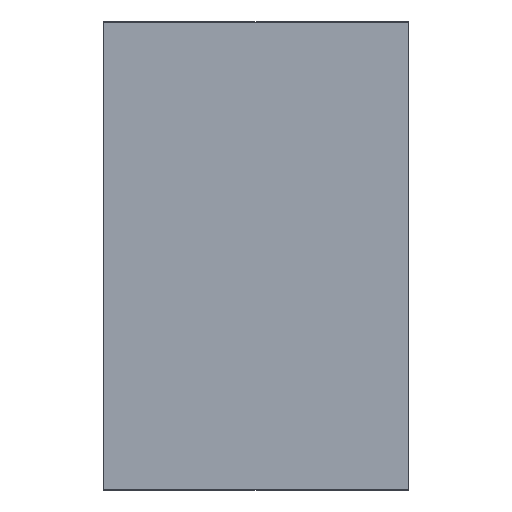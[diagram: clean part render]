
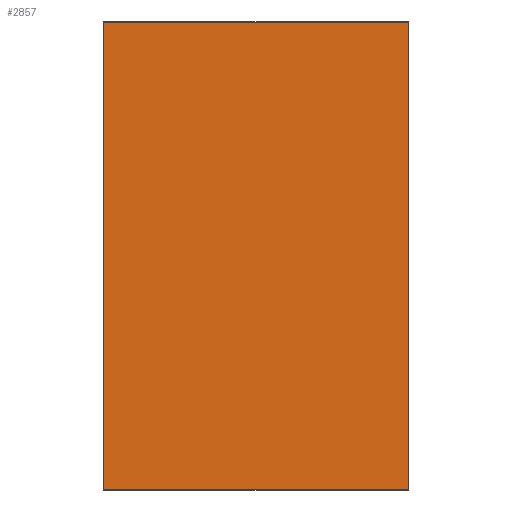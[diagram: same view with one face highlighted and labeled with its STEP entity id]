
A CAD part, left-side view. The second image highlights one B-rep face of the part: STEP entity #2857.
In plain terms, the highlighted planar face has unit normal (-1, 0, 0).
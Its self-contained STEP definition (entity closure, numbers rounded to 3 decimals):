
#40 = ORIENTED_EDGE ( 'NONE', *, *, #2228, .T. ) ;
#103 = ORIENTED_EDGE ( 'NONE', *, *, #1837, .T. ) ;
#109 = VERTEX_POINT ( 'NONE', #358 ) ;
#127 = DIRECTION ( 'NONE',  ( 0., 0., -1. ) ) ;
#169 = ORIENTED_EDGE ( 'NONE', *, *, #928, .F. ) ;
#193 = DIRECTION ( 'NONE',  ( 1., 0., 0. ) ) ;
#223 = CARTESIAN_POINT ( 'NONE',  ( 0., 19.5, 0. ) ) ;
#264 = CARTESIAN_POINT ( 'NONE',  ( 0., 19.5, 0. ) ) ;
#357 = VECTOR ( 'NONE', #1510, 1000. ) ;
#358 = CARTESIAN_POINT ( 'NONE',  ( 0., 0., 0. ) ) ;
#386 = LINE ( 'NONE', #1480, #1432 ) ;
#473 = PLANE ( 'NONE',  #2042 ) ;
#519 = LINE ( 'NONE', #1356, #1676 ) ;
#584 = VERTEX_POINT ( 'NONE', #264 ) ;
#826 = DIRECTION ( 'NONE',  ( 0., 0., 1. ) ) ;
#928 = EDGE_CURVE ( 'NONE', #1128, #1157, #2076, .T. ) ;
#1128 = VERTEX_POINT ( 'NONE', #2075 ) ;
#1157 = VERTEX_POINT ( 'NONE', #2723 ) ;
#1233 = CARTESIAN_POINT ( 'NONE',  ( 0., -0.707, -30. ) ) ;
#1288 = EDGE_LOOP ( 'NONE', ( #1887, #169, #40, #103 ) ) ;
#1356 = CARTESIAN_POINT ( 'NONE',  ( 0., 0., -30.707 ) ) ;
#1389 = FACE_OUTER_BOUND ( 'NONE', #1288, .T. ) ;
#1396 = DIRECTION ( 'NONE',  ( 0., 1., 0. ) ) ;
#1432 = VECTOR ( 'NONE', #826, 1000. ) ;
#1480 = CARTESIAN_POINT ( 'NONE',  ( 0., 19.5, -30.707 ) ) ;
#1510 = DIRECTION ( 'NONE',  ( 0., 1., 0. ) ) ;
#1676 = VECTOR ( 'NONE', #2877, 1000. ) ;
#1837 = EDGE_CURVE ( 'NONE', #109, #584, #2304, .T. ) ;
#1887 = ORIENTED_EDGE ( 'NONE', *, *, #2842, .F. ) ;
#2042 = AXIS2_PLACEMENT_3D ( 'NONE', #223, #193, #127 ) ;
#2053 = VECTOR ( 'NONE', #1396, 1000. ) ;
#2075 = CARTESIAN_POINT ( 'NONE',  ( 0., 0., -30. ) ) ;
#2076 = LINE ( 'NONE', #1233, #2053 ) ;
#2078 = CARTESIAN_POINT ( 'NONE',  ( 0., -0.707, 0. ) ) ;
#2228 = EDGE_CURVE ( 'NONE', #1128, #109, #519, .T. ) ;
#2304 = LINE ( 'NONE', #2078, #357 ) ;
#2723 = CARTESIAN_POINT ( 'NONE',  ( 0., 19.5, -30. ) ) ;
#2842 = EDGE_CURVE ( 'NONE', #1157, #584, #386, .T. ) ;
#2857 = ADVANCED_FACE ( 'NONE', ( #1389 ), #473, .F. ) ;
#2877 = DIRECTION ( 'NONE',  ( 0., 0., 1. ) ) ;
